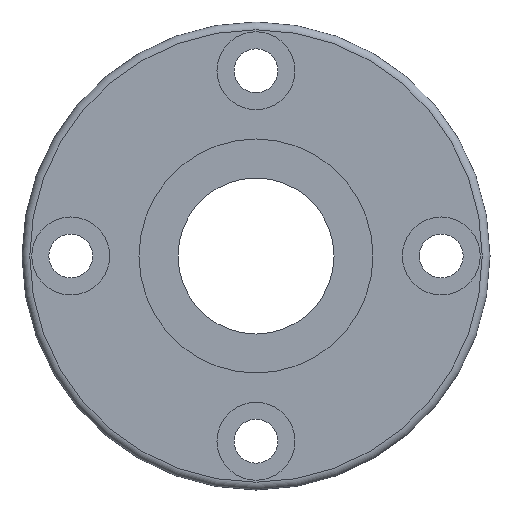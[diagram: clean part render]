
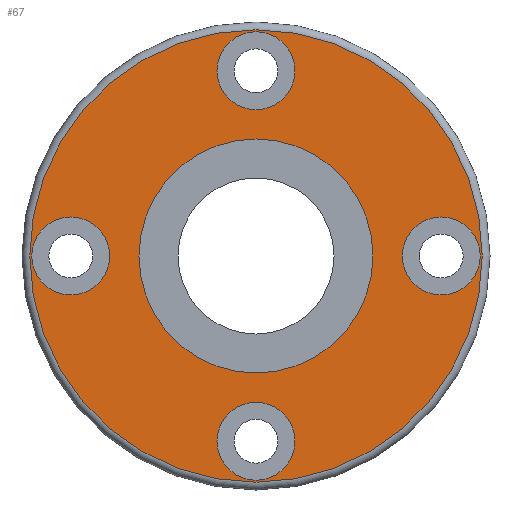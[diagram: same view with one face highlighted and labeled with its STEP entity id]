
A CAD part, left-side view. The second image highlights one B-rep face of the part: STEP entity #67.
In plain terms, the highlighted planar face has unit normal (-1, 0, 0).
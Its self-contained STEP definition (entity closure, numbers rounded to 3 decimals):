
#67 = ADVANCED_FACE( '', ( #154, #155, #156, #157, #158, #159 ), #160, .T. );
#154 = FACE_BOUND( '', #277, .T. );
#155 = FACE_BOUND( '', #278, .T. );
#156 = FACE_BOUND( '', #279, .T. );
#157 = FACE_BOUND( '', #280, .T. );
#158 = FACE_BOUND( '', #281, .T. );
#159 = FACE_OUTER_BOUND( '', #282, .T. );
#160 = PLANE( '', #283 );
#277 = EDGE_LOOP( '', ( #410 ) );
#278 = EDGE_LOOP( '', ( #411 ) );
#279 = EDGE_LOOP( '', ( #412 ) );
#280 = EDGE_LOOP( '', ( #413 ) );
#281 = EDGE_LOOP( '', ( #414 ) );
#282 = EDGE_LOOP( '', ( #415 ) );
#283 = AXIS2_PLACEMENT_3D( '', #416, #417, #418 );
#410 = ORIENTED_EDGE( '', *, *, #554, .T. );
#411 = ORIENTED_EDGE( '', *, *, #555, .T. );
#412 = ORIENTED_EDGE( '', *, *, #544, .T. );
#413 = ORIENTED_EDGE( '', *, *, #556, .T. );
#414 = ORIENTED_EDGE( '', *, *, #557, .F. );
#415 = ORIENTED_EDGE( '', *, *, #558, .T. );
#416 = CARTESIAN_POINT( '', ( 0., 17.9, 0. ) );
#417 = DIRECTION( '', ( -1., 0., 0. ) );
#418 = DIRECTION( '', ( 0., 1., 0. ) );
#544 = EDGE_CURVE( '', #610, #610, #611, .T. );
#554 = EDGE_CURVE( '', #626, #626, #627, .T. );
#555 = EDGE_CURVE( '', #628, #628, #629, .T. );
#556 = EDGE_CURVE( '', #630, #630, #631, .T. );
#557 = EDGE_CURVE( '', #632, #632, #633, .T. );
#558 = EDGE_CURVE( '', #634, #634, #635, .T. );
#610 = VERTEX_POINT( '', #699 );
#611 = CIRCLE( '', #700, 4. );
#626 = VERTEX_POINT( '', #715 );
#627 = CIRCLE( '', #716, 4. );
#628 = VERTEX_POINT( '', #717 );
#629 = CIRCLE( '', #718, 4. );
#630 = VERTEX_POINT( '', #719 );
#631 = CIRCLE( '', #720, 4. );
#632 = VERTEX_POINT( '', #721 );
#633 = CIRCLE( '', #722, 12. );
#634 = VERTEX_POINT( '', #723 );
#635 = CIRCLE( '', #724, 23.2 );
#699 = CARTESIAN_POINT( '', ( 0., -23., 0. ) );
#700 = AXIS2_PLACEMENT_3D( '', #791, #792, #793 );
#715 = CARTESIAN_POINT( '', ( 0., 0., -23. ) );
#716 = AXIS2_PLACEMENT_3D( '', #809, #810, #811 );
#717 = CARTESIAN_POINT( '', ( 0., 0., 23. ) );
#718 = AXIS2_PLACEMENT_3D( '', #812, #813, #814 );
#719 = CARTESIAN_POINT( '', ( 0., 23., 0. ) );
#720 = AXIS2_PLACEMENT_3D( '', #815, #816, #817 );
#721 = CARTESIAN_POINT( '', ( 0., 12., 0. ) );
#722 = AXIS2_PLACEMENT_3D( '', #818, #819, #820 );
#723 = CARTESIAN_POINT( '', ( 0., 23.2, 0. ) );
#724 = AXIS2_PLACEMENT_3D( '', #821, #822, #823 );
#791 = CARTESIAN_POINT( '', ( 0., -19., 0. ) );
#792 = DIRECTION( '', ( 1., 0., 0. ) );
#793 = DIRECTION( '', ( 0., -1., 0. ) );
#809 = CARTESIAN_POINT( '', ( 0., 0., -19. ) );
#810 = DIRECTION( '', ( 1., 0., 0. ) );
#811 = DIRECTION( '', ( 0., 0., -1. ) );
#812 = CARTESIAN_POINT( '', ( 0., 0., 19. ) );
#813 = DIRECTION( '', ( 1., 0., 0. ) );
#814 = DIRECTION( '', ( 0., 0., 1. ) );
#815 = CARTESIAN_POINT( '', ( 0., 19., 0. ) );
#816 = DIRECTION( '', ( 1., 0., 0. ) );
#817 = DIRECTION( '', ( 0., 1., 0. ) );
#818 = CARTESIAN_POINT( '', ( 0., 0., 0. ) );
#819 = DIRECTION( '', ( -1., 0., 0. ) );
#820 = DIRECTION( '', ( 0., 1., 0. ) );
#821 = CARTESIAN_POINT( '', ( 0., 0., 0. ) );
#822 = DIRECTION( '', ( -1., 0., 0. ) );
#823 = DIRECTION( '', ( 0., 0., 1. ) );
